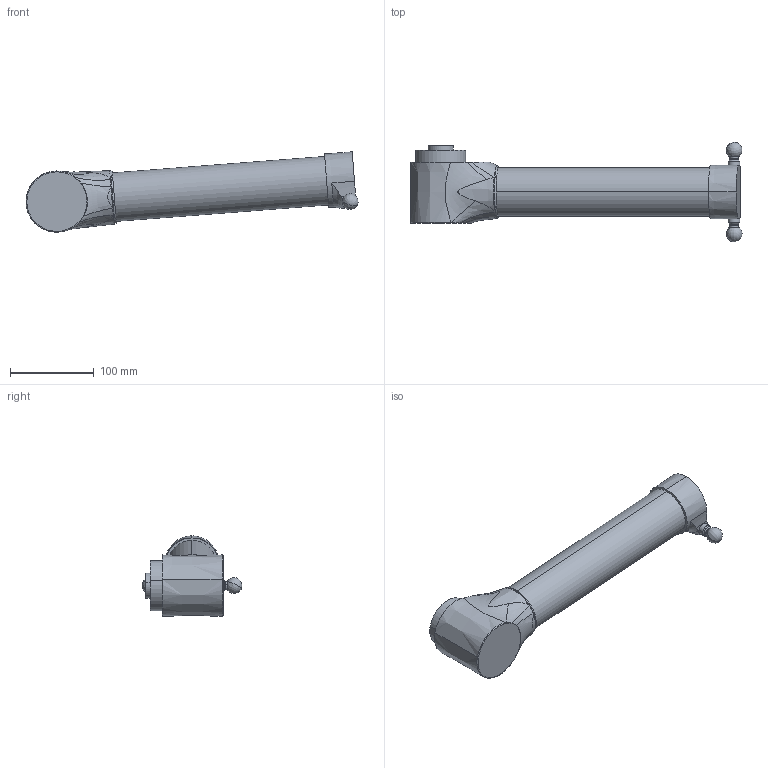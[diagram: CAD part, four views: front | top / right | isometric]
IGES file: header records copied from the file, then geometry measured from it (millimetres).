
Start section: SolidWorks IGES file using analytic representation for surfaces
Global section: file name: C:\Users\SELUHAA\OneDrive - ABB\Work items\609433\IRB360_8-1130-STD-4D_rev03\IRB360_8-1130-STD-4D_rev03_IGS_J\IRB360_8-1130-STD-4D_rev03_UA1_CAD.igs; native system: SolidWorks 2022; preprocessor: SolidWorks 2022; author: SELUHAA; date: 250115.102717; units: millimetre
Bounding box: 395.92 x 118.95 x 95.8 mm (x, y, z)
Volume: 1285426.9 mm3; surface area: 93656.7 mm2
Topology: 1 solids, 1 shells, 72 faces, 170 edges, 102 vertices
Faces by surface type: revolution 45, bspline 17, plane 10
